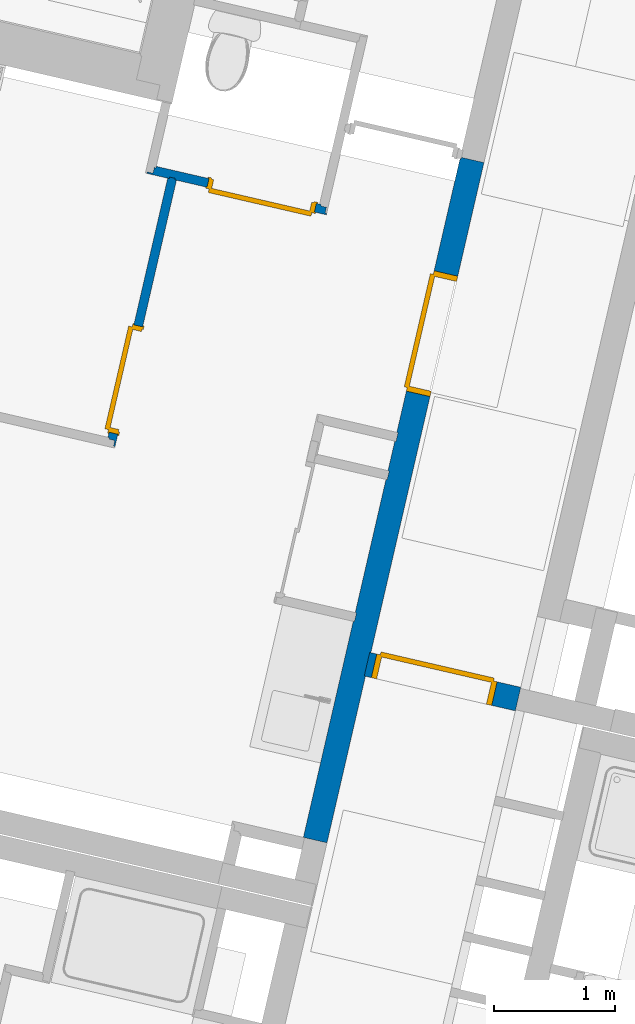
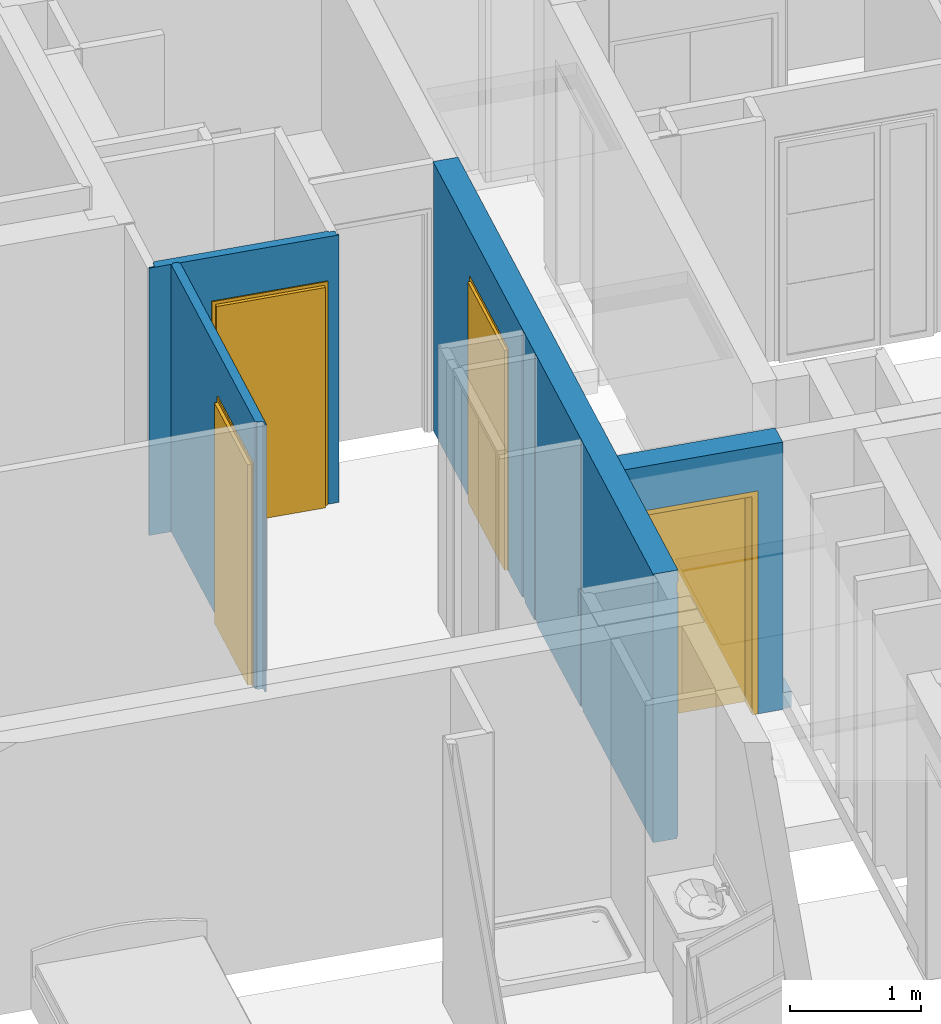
# One storey, part 22 of 119: 4 doors, 4 walls, 4 openings.
"""IFC2X3 building model written with IfcOpenShell, lengths in metres."""

from ifc_helpers import new_model, entity, si_unit, converted_unit, derived_unit, money_unit, direction, frame, origin_with_axes, place, context, subcontext, project, spatial, faceted_brep, source, transform, mapped, material, material_list, type_object, element, fill, save


model = new_model("IFC2X3")

# Units and contexts
model_context = context("Model", 3, precision=1e-05, world=origin_with_axes(), true_north=direction((0.0, 1.0)))
body_context = subcontext(model_context, "Body", "Model", "MODEL_VIEW")
ifc_project = project(units=[si_unit("LENGTHUNIT", "METRE"), si_unit("AREAUNIT", "SQUARE_METRE"), si_unit("VOLUMEUNIT", "CUBIC_METRE"), converted_unit("PLANEANGLEUNIT", "DEGREE", entity("IfcPlaneAngleMeasure", 0.0174532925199), si_unit("PLANEANGLEUNIT", "RADIAN"), dimensions=[0, 0, 0, 0, 0, 0, 0]), si_unit("SOLIDANGLEUNIT", "STERADIAN"), money_unit("EUR"), converted_unit("TIMEUNIT", "Year", entity("IfcTimeMeasure", 31556926.0), si_unit("TIMEUNIT", "SECOND"), dimensions=[0, 0, 1, 0, 0, 0, 0]), si_unit("MASSUNIT", "GRAM", prefix="KILO"), si_unit("THERMODYNAMICTEMPERATUREUNIT", "DEGREE_CELSIUS"), si_unit("LUMINOUSINTENSITYUNIT", "LUMEN"), si_unit("ENERGYUNIT", "JOULE", prefix="MEGA"), derived_unit("THERMALCONDUCTANCEUNIT", [(si_unit("POWERUNIT", "WATT"), 1), (si_unit("LENGTHUNIT", "METRE"), -1), (si_unit("THERMODYNAMICTEMPERATUREUNIT", "KELVIN"), -1)]), derived_unit("SPECIFICHEATCAPACITYUNIT", [(si_unit("ENERGYUNIT", "JOULE"), 1), (si_unit("MASSUNIT", "GRAM", prefix="KILO"), -1), (si_unit("THERMODYNAMICTEMPERATUREUNIT", "KELVIN"), -1)]), derived_unit("MASSDENSITYUNIT", [(si_unit("MASSUNIT", "GRAM", prefix="KILO"), 1), (si_unit("VOLUMEUNIT", "CUBIC_METRE"), -1)])], contexts=[model_context])

# Site, building, storey
site_placement = place(None, origin_with_axes())
site = spatial("IfcSite", under=ifc_project, at=site_placement, Name="Site", CompositionType="ELEMENT")
building_placement = place(site_placement, origin_with_axes())
building = spatial("IfcBuilding", under=site, at=building_placement, Name="Bâtiment", CompositionType="ELEMENT")
storey_placement = place(building_placement, origin_with_axes())
storey = spatial("IfcBuildingStorey", under=building, at=storey_placement, Name="Rez-de-chaussée", CompositionType="ELEMENT", Elevation=0.0)

# Wall, opening, door
ifc_material_1 = material(Name="Finition int - Plaque de plâtre")
ifc_material_2 = material(Name="Isolation - Laine de roche")
ifc_material_list_1 = material_list([ifc_material_1, ifc_material_2, ifc_material_1])
wall_type_1 = type_object("IfcWallType", Name="3 - Cloison 72mm Placostil 74", PredefinedType="USERDEFINED")
wall_1_placement = place(storey_placement, frame((-11.5279039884, 8.48845740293, 0.0), z_axis=(0.0, 0.0, 1.0), x_axis=(0.97438734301, -0.224876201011, 0.0)))
wall_1 = element("IfcWall", 1, at=wall_1_placement, inside=storey, type_object=wall_type_1, material=ifc_material_list_1, Name="Cloison Placostil 72/48", ObjectType="PARTITIONING", context=body_context, shape_type="Brep", body=[
    faceted_brep([(0.521853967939, 0.074, 2.08), (0.521853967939, 0.074, 0.0), (0.0739999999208, 0.074, 0.0), (0.0739999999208, 0.074, 2.5), (1.47199999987, 0.074, 2.5), (1.47199999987, 0.074, 0.0), (1.43185396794, 0.074, 0.0), (1.43185396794, 0.074, 2.08), (0.521853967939, 0.061, 2.08), (0.521853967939, 0.061, 0.0), (0.0739999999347, 0.061, 0.0), (0.0739999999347, 0.061, 2.5), (1.47199999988, 0.061, 2.5), (1.47199999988, 0.061, 0.0), (1.43185396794, 0.061, 0.0), (1.43185396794, 0.061, 2.08)], [[[0, 1, 2, 3, 4, 5, 6, 7]], [[1, 0, 8, 9]], [[1, 9, 10, 2]], [[2, 10, 11, 3]], [[4, 3, 11, 12]], [[5, 4, 12, 13]], [[14, 6, 5, 13]], [[7, 6, 14, 15]], [[0, 7, 15, 8]], [[15, 14, 13, 12, 11, 10, 9, 8]]]),
    faceted_brep([(0.521853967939, 0.061, 2.08), (0.521853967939, 0.061, 0.0), (0.0609999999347, 0.061, 0.0), (0.0609999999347, 0.061, 2.5), (1.51999999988, 0.061, 2.5), (1.51999999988, 0.061, 0.0), (1.43185396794, 0.061, 0.0), (1.43185396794, 0.061, 2.08), (0.521853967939, 0.013, 2.08), (0.521853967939, 0.013, 0.0), (0.0609999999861, 0.013, 0.0), (0.0609999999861, 0.013, 2.5), (1.5199999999, 0.013, 2.5), (1.5199999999, 0.013, 0.0), (1.43185396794, 0.013, 0.0), (1.43185396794, 0.013, 2.08)], [[[0, 1, 2, 3, 4, 5, 6, 7]], [[1, 0, 8, 9]], [[1, 9, 10, 2]], [[2, 10, 11, 3]], [[4, 3, 11, 12]], [[5, 4, 12, 13]], [[14, 6, 5, 13]], [[7, 6, 14, 15]], [[0, 7, 15, 8]], [[15, 14, 13, 12, 11, 10, 9, 8]]]),
    faceted_brep([(0.202000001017, 0.013, 0.0), (0.202000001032, 0.0, 0.0), (0.013, 0.0, 0.0), (0.0129999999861, 0.013, 0.0), (0.202000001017, 0.013, 2.5), (0.202000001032, 0.0, 2.5), (0.013, 0.0, 2.5), (0.0129999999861, 0.013, 2.5)], [[[0, 1, 2, 3]], [[1, 0, 4, 5]], [[1, 5, 6, 2]], [[7, 3, 2, 6]], [[4, 0, 3, 7]], [[5, 4, 7, 6]]]),
    faceted_brep([(0.521853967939, 0.013, 2.08), (0.521853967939, 0.013, 0.0), (0.250000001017, 0.013, 0.0), (0.250000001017, 0.013, 2.5), (1.5329999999, 0.013, 2.5), (1.5329999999, 0.013, 0.0), (1.43185396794, 0.013, 0.0), (1.43185396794, 0.013, 2.08), (0.521853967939, 0.0, 2.08), (0.521853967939, 0.0, 0.0), (0.250000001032, 0.0, 0.0), (0.250000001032, 0.0, 2.5), (1.53299999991, 0.0, 2.5), (1.53299999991, 0.0, 0.0), (1.43185396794, 0.0, 0.0), (1.43185396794, 0.0, 2.08)], [[[0, 1, 2, 3, 4, 5, 6, 7]], [[1, 0, 8, 9]], [[1, 9, 10, 2]], [[2, 10, 11, 3]], [[4, 3, 11, 12]], [[5, 4, 12, 13]], [[14, 6, 5, 13]], [[7, 6, 14, 15]], [[0, 7, 15, 8]], [[15, 14, 13, 12, 11, 10, 9, 8]]]),
])
opening_1_placement = place(wall_1_placement, frame((0.976853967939, 0.0, 0.0), z_axis=(0.0, 0.0, 1.0), x_axis=(1.0, 0.0, 0.0)))
opening_1 = element("IfcOpeningElement", 2, at=opening_1_placement, cuts=wall_1, Name="Porte 83x204 bois alvéolaire", context=body_context, shape_type="Brep", body=[
    faceted_brep([(-0.455, 0.074, 0.0), (0.455, 0.074, 0.0), (0.455, -0.074, 0.0), (-0.455, -0.074, 0.0), (-0.455, 0.074, 2.08), (0.455, 0.074, 2.08), (0.455, -0.074, 2.08), (-0.455, -0.074, 2.08)], [[[0, 1, 2, 3]], [[0, 4, 5, 1]], [[1, 5, 6, 2]], [[3, 2, 6, 7]], [[4, 0, 3, 7]], [[5, 4, 7, 6]]]),
])
door_style_1 = type_object("IfcDoorStyle", Name="Porte int générique 2019", ConstructionType="NOTDEFINED", OperationType="SINGLE_SWING_RIGHT", ParameterTakesPrecedence=False, Sizeable=False)
shared_shape_1 = source(origin_with_axes(), body_context, "Body", "Brep", [
    faceted_brep([(0.455, 0.0, 0.0), (0.415, 0.0, 0.0), (0.415, 0.0, 2.04), (-0.415, 0.0, 2.04), (-0.415, 0.0, 0.0), (-0.455, 0.0, 0.0), (-0.455, 0.0, 2.08), (0.455, 0.0, 2.08), (0.455, -0.074, 0.0), (0.415, -0.074, 0.0), (0.415, -0.074, 2.04), (-0.415, -0.074, 2.04), (-0.415, -0.074, 0.0), (-0.455, -0.074, 0.0), (-0.455, -0.074, 2.08), (0.455, -0.074, 2.08)], [[[0, 1, 2, 3, 4, 5, 6, 7]], [[0, 8, 9, 1]], [[1, 9, 10, 2]], [[2, 10, 11, 3]], [[3, 11, 12, 4]], [[5, 4, 12, 13]], [[14, 6, 5, 13]], [[15, 7, 6, 14]], [[8, 0, 7, 15]], [[9, 8, 15, 14, 13, 12, 11, 10]]]),
    faceted_brep([(0.465, 0.0, 0.0), (0.465, 0.01, 0.0), (0.465, 0.01, 2.09), (0.465, 0.0, 2.09), (0.435, 0.0, 0.0), (0.435, 0.01, 0.0), (0.435, 0.01, 2.06), (-0.435, 0.01, 2.06), (-0.435, 0.01, 0.0), (-0.465, 0.01, 0.0), (-0.465, 0.01, 2.09), (-0.465, 0.0, 2.09), (-0.465, 0.0, 0.0), (-0.435, 0.0, 0.0), (-0.435, 0.0, 2.06), (0.435, 0.0, 2.06)], [[[0, 1, 2, 3]], [[0, 4, 5, 1]], [[1, 5, 6, 7, 8, 9, 10, 2]], [[3, 2, 10, 11]], [[4, 0, 3, 11, 12, 13, 14, 15]], [[5, 4, 15, 6]], [[6, 15, 14, 7]], [[7, 14, 13, 8]], [[12, 9, 8, 13]], [[11, 10, 9, 12]]]),
    faceted_brep([(0.465, -0.084, 0.0), (0.465, -0.074, 0.0), (0.465, -0.074, 2.09), (0.465, -0.084, 2.09), (0.435, -0.084, 0.0), (0.435, -0.074, 0.0), (0.435, -0.074, 2.06), (-0.435, -0.074, 2.06), (-0.435, -0.074, 0.0), (-0.465, -0.074, 0.0), (-0.465, -0.074, 2.09), (-0.465, -0.084, 2.09), (-0.465, -0.084, 0.0), (-0.435, -0.084, 0.0), (-0.435, -0.084, 2.06), (0.435, -0.084, 2.06)], [[[0, 1, 2, 3]], [[0, 4, 5, 1]], [[1, 5, 6, 7, 8, 9, 10, 2]], [[3, 2, 10, 11]], [[4, 0, 3, 11, 12, 13, 14, 15]], [[5, 4, 15, 6]], [[6, 15, 14, 7]], [[7, 14, 13, 8]], [[12, 9, 8, 13]], [[11, 10, 9, 12]]]),
    faceted_brep([(0.435, 0.04, 0.0), (0.435, 0.0, 0.0), (-0.435, 0.0, 0.0), (-0.435, 0.04, 0.0), (0.435, 0.04, 2.06), (0.435, 0.0, 2.06), (-0.435, 0.0, 2.06), (-0.435, 0.04, 2.06)], [[[0, 1, 2, 3]], [[4, 5, 1, 0]], [[1, 5, 6, 2]], [[3, 2, 6, 7]], [[0, 3, 7, 4]], [[7, 6, 5, 4]]]),
])
door_1_placement = place(opening_1_placement, frame((0.415, 0.0, 0.0), z_axis=(0.0, 0.0, 1.0), x_axis=(-1.0, 0.0, 0.0)))
door_1 = element("IfcDoor", 3, at=door_1_placement, inside=storey, type_object=door_style_1, Name="Porte 83x204 bois alvéolaire", ObjectType="DOOR", OverallHeight=2.04, OverallWidth=0.83, context=body_context, shape_type="MappedRepresentation", body=[
    mapped(shared_shape_1, transform((0.415, 0.0, 0.0))),
])
fill(opening_1, door_1)

wall_2_placement = place(storey_placement, frame((-11.781974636, 6.21803828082, 0.0), z_axis=(0.0, 0.0, 1.0), x_axis=(0.224876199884, 0.974387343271, 0.0)))
wall_2 = element("IfcWall", 4, at=wall_2_placement, inside=storey, type_object=wall_type_1, material=ifc_material_list_1, Name="Cloison Placostil 72/48", ObjectType="PARTITIONING", context=body_context, shape_type="Brep", body=[
    faceted_brep([(0.117208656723, 0.061, 0.0), (0.117208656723, 0.061, 2.08), (1.02720865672, 0.061, 2.08), (1.02720865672, 0.061, 0.0), (2.26940209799, 0.061, 0.0), (2.26940209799, 0.061, 2.5), (0.0739999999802, 0.061, 2.5), (0.0739999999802, 0.061, 0.0), (0.117208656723, 0.074, 0.0), (0.117208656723, 0.074, 2.08), (1.02720865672, 0.074, 2.08), (1.02720865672, 0.074, 0.0), (2.26940209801, 0.074, 0.0), (2.26940209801, 0.074, 2.5), (0.073999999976, 0.074, 2.5), (0.073999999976, 0.074, 0.0)], [[[0, 1, 2, 3, 4, 5, 6, 7]], [[1, 0, 8, 9]], [[2, 1, 9, 10]], [[3, 2, 10, 11]], [[3, 11, 12, 4]], [[12, 13, 5, 4]], [[13, 14, 6, 5]], [[15, 7, 6, 14]], [[8, 0, 7, 15]], [[9, 8, 15, 14, 13, 12, 11, 10]]]),
    faceted_brep([(0.117208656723, 0.013, 0.0), (0.117208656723, 0.013, 2.08), (1.02720865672, 0.013, 2.08), (1.02720865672, 0.013, 0.0), (2.28240209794, 0.013, 0.0), (2.28240209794, 0.013, 2.5), (0.0609999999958, 0.013, 2.5), (0.0609999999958, 0.013, 0.0), (0.117208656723, 0.061, 0.0), (0.117208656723, 0.061, 2.08), (1.02720865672, 0.061, 2.08), (1.02720865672, 0.061, 0.0), (2.28240209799, 0.061, 0.0), (2.28240209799, 0.061, 2.5), (0.0609999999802, 0.061, 2.5), (0.0609999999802, 0.061, 0.0)], [[[0, 1, 2, 3, 4, 5, 6, 7]], [[1, 0, 8, 9]], [[2, 1, 9, 10]], [[3, 2, 10, 11]], [[3, 11, 12, 4]], [[12, 13, 5, 4]], [[13, 14, 6, 5]], [[15, 7, 6, 14]], [[8, 0, 7, 15]], [[9, 8, 15, 14, 13, 12, 11, 10]]]),
    faceted_brep([(0.117208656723, 0.0, 0.0), (0.117208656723, 0.0, 2.08), (1.02720865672, 0.0, 2.08), (1.02720865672, 0.0, 0.0), (2.26940209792, 0.0, 0.0), (2.26940209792, 0.0, 2.5), (0.013, 0.0, 2.5), (0.013, 0.0, 0.0), (0.117208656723, 0.013, 0.0), (0.117208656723, 0.013, 2.08), (1.02720865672, 0.013, 2.08), (1.02720865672, 0.013, 0.0), (2.26940209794, 0.013, 0.0), (2.26940209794, 0.013, 2.5), (0.0129999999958, 0.013, 2.5), (0.0129999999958, 0.013, 0.0)], [[[0, 1, 2, 3, 4, 5, 6, 7]], [[1, 0, 8, 9]], [[2, 1, 9, 10]], [[3, 2, 10, 11]], [[3, 11, 12, 4]], [[12, 13, 5, 4]], [[13, 14, 6, 5]], [[15, 7, 6, 14]], [[8, 0, 7, 15]], [[9, 8, 15, 14, 13, 12, 11, 10]]]),
])
opening_2_placement = place(wall_2_placement, frame((0.572208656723, 0.0, 0.0), z_axis=(0.0, 0.0, 1.0), x_axis=(1.0, 0.0, 0.0)))
opening_2 = element("IfcOpeningElement", 5, at=opening_2_placement, cuts=wall_2, Name="Porte 83x204 bois alvéolaire", context=body_context, shape_type="Brep", body=[
    faceted_brep([(-0.455, 0.074, 0.0), (0.455, 0.074, 0.0), (0.455, -0.074, 0.0), (-0.455, -0.074, 0.0), (-0.455, 0.074, 2.08), (0.455, 0.074, 2.08), (0.455, -0.074, 2.08), (-0.455, -0.074, 2.08)], [[[0, 1, 2, 3]], [[0, 4, 5, 1]], [[1, 5, 6, 2]], [[3, 2, 6, 7]], [[4, 0, 3, 7]], [[5, 4, 7, 6]]]),
])
door_style_2 = type_object("IfcDoorStyle", Name="Porte int générique 2019", ConstructionType="NOTDEFINED", OperationType="SINGLE_SWING_LEFT", ParameterTakesPrecedence=False, Sizeable=False)
shared_shape_2 = source(origin_with_axes(), body_context, "Body", "Brep", [
    faceted_brep([(-0.455, -0.006, 0.0), (-0.455, -0.006, 2.08), (0.455, -0.006, 2.08), (0.455, -0.006, 0.0), (0.415, -0.006, 0.0), (0.415, -0.006, 2.04), (-0.415, -0.006, 2.04), (-0.415, -0.006, 0.0), (-0.455, -0.08, 0.0), (-0.455, -0.08, 2.08), (0.455, -0.08, 2.08), (0.455, -0.08, 0.0), (0.415, -0.08, 0.0), (0.415, -0.08, 2.04), (-0.415, -0.08, 2.04), (-0.415, -0.08, 0.0)], [[[0, 1, 2, 3, 4, 5, 6, 7]], [[8, 9, 1, 0]], [[9, 10, 2, 1]], [[10, 11, 3, 2]], [[3, 11, 12, 4]], [[5, 4, 12, 13]], [[6, 5, 13, 14]], [[7, 6, 14, 15]], [[0, 7, 15, 8]], [[15, 14, 13, 12, 11, 10, 9, 8]]]),
    faceted_brep([(-0.465, -0.006, 0.0), (-0.465, -0.006, 2.09), (-0.465, 0.004, 2.09), (-0.465, 0.004, 0.0), (-0.435, -0.006, 0.0), (-0.435, -0.006, 2.06), (0.435, -0.006, 2.06), (0.435, -0.006, 0.0), (0.465, -0.006, 0.0), (0.465, -0.006, 2.09), (0.465, 0.004, 2.09), (0.465, 0.004, 0.0), (0.435, 0.004, 0.0), (0.435, 0.004, 2.06), (-0.435, 0.004, 2.06), (-0.435, 0.004, 0.0)], [[[0, 1, 2, 3]], [[4, 5, 6, 7, 8, 9, 1, 0]], [[1, 9, 10, 2]], [[3, 2, 10, 11, 12, 13, 14, 15]], [[0, 3, 15, 4]], [[15, 14, 5, 4]], [[14, 13, 6, 5]], [[13, 12, 7, 6]], [[8, 7, 12, 11]], [[9, 8, 11, 10]]]),
    faceted_brep([(-0.465, -0.09, 0.0), (-0.465, -0.09, 2.09), (-0.465, -0.08, 2.09), (-0.465, -0.08, 0.0), (-0.435, -0.09, 0.0), (-0.435, -0.09, 2.06), (0.435, -0.09, 2.06), (0.435, -0.09, 0.0), (0.465, -0.09, 0.0), (0.465, -0.09, 2.09), (0.465, -0.08, 2.09), (0.465, -0.08, 0.0), (0.435, -0.08, 0.0), (0.435, -0.08, 2.06), (-0.435, -0.08, 2.06), (-0.435, -0.08, 0.0)], [[[0, 1, 2, 3]], [[4, 5, 6, 7, 8, 9, 1, 0]], [[1, 9, 10, 2]], [[3, 2, 10, 11, 12, 13, 14, 15]], [[0, 3, 15, 4]], [[15, 14, 5, 4]], [[14, 13, 6, 5]], [[13, 12, 7, 6]], [[8, 7, 12, 11]], [[9, 8, 11, 10]]]),
    faceted_brep([(-0.435, 0.034, 0.0), (0.435, 0.034, 0.0), (0.435, -0.006, 0.0), (-0.435, -0.006, 0.0), (-0.435, 0.034, 2.06), (0.435, 0.034, 2.06), (0.435, -0.006, 2.06), (-0.435, -0.006, 2.06)], [[[0, 1, 2, 3]], [[0, 4, 5, 1]], [[1, 5, 6, 2]], [[3, 2, 6, 7]], [[4, 0, 3, 7]], [[5, 4, 7, 6]]]),
])
door_2_placement = place(opening_2_placement, frame((-0.415, 0.0, 0.0), z_axis=(0.0, 0.0, 1.0), x_axis=(1.0, 0.0, 0.0)))
door_2 = element("IfcDoor", 6, at=door_2_placement, inside=storey, type_object=door_style_2, Name="Porte 83x204 bois alvéolaire", ObjectType="DOOR", OverallHeight=2.04, OverallWidth=0.83, context=body_context, shape_type="MappedRepresentation", body=[
    mapped(shared_shape_2, transform((0.415, 0.08, 0.0))),
])
fill(opening_2, door_2)

ifc_material_3 = material(Name="Finition int - Enduit plâtre")
ifc_material_4 = material(Name="Béton")
ifc_material_list_2 = material_list([ifc_material_3, ifc_material_4, ifc_material_3])
wall_type_2 = type_object("IfcWallType", Name="2 - Murs Béton 18 + Enduit 2 Faces 200", PredefinedType="USERDEFINED")
wall_3_placement = place(storey_placement, frame((-8.91765505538, 8.61778702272, 0.0), z_axis=(0.0, 0.0, 1.0), x_axis=(-0.22487619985, -0.974387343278, 0.0)))
wall_3 = element("IfcWall", 7, at=wall_3_placement, inside=storey, type_object=wall_type_2, material=ifc_material_list_2, Name="M_Ext-009", ObjectType="SOLIDWALL", context=body_context, shape_type="Brep", body=[
    faceted_brep([(1.98260959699, 0.19, 0.0), (1.98260959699, 0.19, 2.085), (0.962609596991, 0.19, 2.085), (0.962609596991, 0.19, 0.0), (0.0, 0.19, 0.0), (0.0, 0.19, 2.51), (5.76426652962, 0.19, 2.51), (5.76426652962, 0.19, 2.4), (4.35282915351, 0.19, 2.4), (4.35282915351, 0.19, 2.287), (5.76426652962, 0.19, 2.287), (5.76426652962, 0.19, 0.02), (4.35282915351, 0.19, 0.02), (4.35282915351, 0.19, 0.0), (1.98260959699, 0.180000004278, 0.0), (1.98260959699, 0.180000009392, 2.085), (0.962609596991, 0.180000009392, 2.085), (0.962609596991, 0.180000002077, 0.0), (0.0, 0.18, 0.0), (0.0, 0.18, 2.51), (5.76426652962, 0.180000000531, 2.51), (5.76426652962, 0.180000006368, 2.4), (4.35282915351, 0.180000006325, 2.4), (4.35282915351, 0.180000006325, 2.287), (5.76426652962, 0.180000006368, 2.287), (5.76426652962, 0.180000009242, 0.02), (4.35282915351, 0.180000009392, 0.02), (4.35282915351, 0.180000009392, 0.0)], [[[0, 1, 2, 3, 4, 5, 6, 7, 8, 9, 10, 11, 12, 13]], [[1, 0, 14, 15]], [[2, 1, 15, 16]], [[3, 2, 16, 17]], [[3, 17, 18, 4]], [[5, 4, 18, 19]], [[5, 19, 20, 6]], [[20, 21, 7, 6]], [[7, 21, 22, 8]], [[22, 23, 9, 8]], [[9, 23, 24, 10]], [[11, 10, 24, 25]], [[11, 25, 26, 12]], [[26, 27, 13, 12]], [[14, 0, 13, 27]], [[15, 14, 27, 26, 25, 24, 23, 22, 21, 20, 19, 18, 17, 16]]]),
    faceted_brep([(1.98260959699, 0.18, 0.0), (1.98260959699, 0.18, 2.085), (0.962609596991, 0.18, 2.085), (0.962609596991, 0.18, 0.0), (0.0, 0.18, 0.0), (0.0, 0.18, 2.51), (5.76426652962, 0.18, 2.51), (5.76426652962, 0.18, 0.0), (1.98260959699, 0.0, 0.0), (1.98260959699, 0.0, 2.085), (0.962609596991, 0.0, 2.085), (0.962609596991, 0.0, 0.0), (0.0, 0.0, 0.0), (0.0, 0.0, 2.51), (5.76426652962, 0.0, 2.51), (5.76426652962, 0.0, 0.0)], [[[0, 1, 2, 3, 4, 5, 6, 7]], [[1, 0, 8, 9]], [[2, 1, 9, 10]], [[3, 2, 10, 11]], [[3, 11, 12, 4]], [[5, 4, 12, 13]], [[5, 13, 14, 6]], [[14, 15, 7, 6]], [[8, 0, 7, 15]], [[9, 8, 15, 14, 13, 12, 11, 10]]]),
    faceted_brep([(1.98260959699, 0.0, 0.0), (1.98260959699, 0.0, 2.085), (0.962609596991, 0.0, 2.085), (0.962609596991, 0.0, 0.0), (0.0129999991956, 0.0, 0.0), (0.0129999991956, 0.0, 2.5), (-8.04438293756e-10, 0.0, 2.5), (-4.02219590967e-10, 0.0, 2.51), (5.76426652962, 0.0, 2.51), (5.76426652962, 0.0, 0.0), (3.93357240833, 0.0, 0.0), (3.93357240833, 0.0, 2.5), (3.85957240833, 0.0, 2.5), (3.85957240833, 0.0, 0.0), (2.73060959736, 0.0, 0.0), (2.73060959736, 0.0, 2.5), (2.65660959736, 0.0, 2.5), (2.65660959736, 0.0, 0.0), (2.40660959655, 0.0, 0.0), (2.40660959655, 0.0, 2.5), (2.33260959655, 0.0, 2.5), (2.33260959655, 0.0, 0.0), (1.98260959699, -0.01, 0.0), (1.98260959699, -0.01, 2.085), (0.962609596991, -0.01, 2.085), (0.962609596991, -0.01, 0.0), (0.0129999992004, -0.01, 0.0), (0.0129999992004, -0.01, 2.5), (-7.99628807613e-10, -0.01, 2.5), (-3.99814403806e-10, -0.01, 2.51), (5.76426652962, -0.01, 2.51), (5.76426652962, -0.01, 0.0), (3.93357240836, -0.01, 0.0), (3.93357240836, -0.01, 2.5), (3.85957240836, -0.01, 2.5), (3.85957240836, -0.01, 0.0), (2.7306095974, -0.01, 0.0), (2.7306095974, -0.01, 2.5), (2.6566095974, -0.01, 2.5), (2.6566095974, -0.01, 0.0), (2.40660959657, -0.01, 0.0), (2.40660959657, -0.01, 2.5), (2.33260959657, -0.01, 2.5), (2.33260959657, -0.01, 0.0)], [[[0, 1, 2, 3, 4, 5, 6, 7, 8, 9, 10, 11, 12, 13, 14, 15, 16, 17, 18, 19, 20, 21]], [[1, 0, 22, 23]], [[2, 1, 23, 24]], [[3, 2, 24, 25]], [[3, 25, 26, 4]], [[5, 4, 26, 27]], [[28, 6, 5, 27]], [[7, 6, 28, 29]], [[7, 29, 30, 8]], [[30, 31, 9, 8]], [[32, 10, 9, 31]], [[11, 10, 32, 33]], [[12, 11, 33, 34]], [[13, 12, 34, 35]], [[13, 35, 36, 14]], [[15, 14, 36, 37]], [[16, 15, 37, 38]], [[17, 16, 38, 39]], [[17, 39, 40, 18]], [[19, 18, 40, 41]], [[20, 19, 41, 42]], [[21, 20, 42, 43]], [[22, 0, 21, 43]], [[23, 22, 43, 42, 41, 40, 39, 38, 37, 36, 35, 34, 33, 32, 31, 30, 29, 28, 27, 26, 25, 24]]]),
])
opening_3_placement = place(wall_3_placement, frame((1.47260959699, 0.0, 0.0), z_axis=(0.0, 0.0, 1.0), x_axis=(1.0, 0.0, 0.0)))
opening_3 = element("IfcOpeningElement", 8, at=opening_3_placement, cuts=wall_3, Name="Porte 93x204 bois blindée", context=body_context, shape_type="Brep", body=[
    faceted_brep([(-0.51, 0.2, 0.0), (0.51, 0.2, 0.0), (0.51, -0.2, 0.0), (-0.51, -0.2, 0.0), (-0.51, 0.2, 2.085), (0.51, 0.2, 2.085), (0.51, -0.2, 2.085), (-0.51, -0.2, 2.085)], [[[0, 1, 2, 3]], [[0, 4, 5, 1]], [[1, 5, 6, 2]], [[3, 2, 6, 7]], [[4, 0, 3, 7]], [[5, 4, 7, 6]]]),
])
door_style_3 = type_object("IfcDoorStyle", Name="Porte int générique 2019", ConstructionType="NOTDEFINED", OperationType="SINGLE_SWING_RIGHT", ParameterTakesPrecedence=False, Sizeable=False)
shared_shape_3 = source(origin_with_axes(), body_context, "Body", "Brep", [
    faceted_brep([(0.51, 0.0, 0.0), (0.48, 0.0, 0.0), (0.48, 0.0, 2.055), (-0.48, 0.0, 2.055), (-0.48, 0.0, 0.0), (-0.51, 0.0, 0.0), (-0.51, 0.0, 2.085), (0.51, 0.0, 2.085), (0.51, -0.2, 0.0), (0.465, -0.2, 0.0), (0.465, -0.015, 0.0), (0.48, -0.015, 0.0), (0.48, -0.015, 2.055), (-0.48, -0.015, 2.055), (-0.48, -0.015, 0.0), (-0.465, -0.015, 0.0), (-0.465, -0.2, 0.0), (-0.51, -0.2, 0.0), (-0.51, -0.2, 2.085), (0.51, -0.2, 2.085), (-0.465, -0.2, 2.04), (0.465, -0.2, 2.04), (0.465, -0.015, 2.04), (-0.465, -0.015, 2.04)], [[[0, 1, 2, 3, 4, 5, 6, 7]], [[0, 8, 9, 10, 11, 1]], [[1, 11, 12, 2]], [[2, 12, 13, 3]], [[3, 13, 14, 4]], [[5, 4, 14, 15, 16, 17]], [[18, 6, 5, 17]], [[19, 7, 6, 18]], [[8, 0, 7, 19]], [[9, 8, 19, 18, 17, 16, 20, 21]], [[10, 9, 21, 22]], [[11, 10, 22, 23, 15, 14, 13, 12]], [[23, 20, 16, 15]], [[22, 21, 20, 23]]]),
    faceted_brep([(0.48, 0.025, 0.0), (0.48, -0.015, 0.0), (-0.48, -0.015, 0.0), (-0.48, 0.025, 0.0), (0.48, 0.025, 2.055), (0.48, -0.015, 2.055), (-0.48, -0.015, 2.055), (-0.48, 0.025, 2.055)], [[[0, 1, 2, 3]], [[4, 5, 1, 0]], [[1, 5, 6, 2]], [[3, 2, 6, 7]], [[0, 3, 7, 4]], [[7, 6, 5, 4]]]),
])
door_3_placement = place(opening_3_placement, frame((0.465, 0.0, 0.0), z_axis=(0.0, 0.0, 1.0), x_axis=(-1.0, 0.0, 0.0)))
door_3 = element("IfcDoor", 9, at=door_3_placement, inside=storey, type_object=door_style_3, Name="Porte 93x204 bois blindée", ObjectType="DOOR", OverallHeight=2.04, OverallWidth=0.93, context=body_context, shape_type="MappedRepresentation", body=[
    mapped(shared_shape_3, transform((0.465, 0.01, 0.0))),
])
fill(opening_3, door_3)

wall_4_placement = place(storey_placement, frame((-8.47351669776, 4.04803831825, 0.0), z_axis=(0.0, 0.0, 1.0), x_axis=(-0.974387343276, 0.224876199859, 0.0)))
wall_4 = element("IfcWall", 10, at=wall_4_placement, inside=storey, type_object=wall_type_2, material=ifc_material_list_2, Name="M_Ext-008", ObjectType="SOLIDWALL", context=body_context, shape_type="Brep", body=[
    faceted_brep([(1.22039556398, -0.01, 2.085), (1.22039556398, -0.01, 0.02), (1.22039556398, -0.01, 0.0), (1.28039052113, -0.01, 0.0), (1.28039052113, -0.01, 2.5), (0.0, -0.01, 2.5), (0.0, -0.01, 0.15), (0.0, -0.01, 0.0), (0.200395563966, -0.01, 0.0), (0.20039556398, -0.01, 0.02), (0.20039556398, -0.01, 2.085), (1.22039556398, 0.0, 2.085), (1.22039556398, 0.0, 0.02), (1.22039556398, 0.0, 0.0), (1.28039052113, 0.0, 0.0), (1.28039052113, 0.0, 2.5), (0.0, -8.19564593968e-09, 2.5), (0.0, -8.19564593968e-09, 0.15), (0.0, 0.0, 0.0), (0.20039556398, 0.0, 0.0), (0.20039556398, 0.0, 0.02), (0.20039556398, 0.0, 2.085)], [[[0, 1, 2, 3, 4, 5, 6, 7, 8, 9, 10]], [[1, 0, 11, 12]], [[1, 12, 13, 2]], [[13, 14, 3, 2]], [[14, 15, 4, 3]], [[15, 16, 5, 4]], [[17, 6, 5, 16]], [[7, 6, 17, 18]], [[8, 7, 18, 19]], [[20, 9, 8, 19]], [[10, 9, 20, 21]], [[0, 10, 21, 11]], [[21, 20, 19, 18, 17, 16, 15, 14, 13, 12, 11]]]),
    faceted_brep([(1.22039556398, -0.19, 2.085), (1.22039556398, -0.19, 0.005), (1.22039556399, -0.19, 0.0), (1.28039052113, -0.19, 0.0), (1.28039052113, -0.19, 2.5), (0.0, -0.19, 2.5), (0.0, -0.19, 0.15), (-0.0739999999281, -0.19, 0.15), (-0.0739999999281, -0.19, 0.0), (0.200395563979, -0.19, 0.0), (0.20039556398, -0.19, 0.005), (0.20039556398, -0.19, 2.085), (1.22039556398, -0.01, 2.085), (1.22039556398, -0.01, 0.005), (1.22039556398, -0.01, 0.0), (1.28039052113, -0.01, 0.0), (1.28039052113, -0.01, 2.5), (0.0, -0.01, 2.5), (0.0, -0.01, 0.15), (-0.0739999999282, -0.01, 0.15), (-0.0739999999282, -0.01, 0.0), (0.200395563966, -0.01, 0.0), (0.20039556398, -0.01, 0.005), (0.20039556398, -0.01, 2.085)], [[[0, 1, 2, 3, 4, 5, 6, 7, 8, 9, 10, 11]], [[1, 0, 12, 13]], [[1, 13, 14, 2]], [[14, 15, 3, 2]], [[16, 4, 3, 15]], [[17, 5, 4, 16]], [[6, 5, 17, 18]], [[19, 7, 6, 18]], [[8, 7, 19, 20]], [[9, 8, 20, 21]], [[22, 10, 9, 21]], [[11, 10, 22, 23]], [[0, 11, 23, 12]], [[23, 22, 21, 20, 19, 18, 17, 16, 15, 14, 13, 12]]]),
    faceted_brep([(1.22039556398, -0.2, 2.085), (1.22039556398, -0.2, 0.02), (1.22039556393, -0.2, 0.0), (1.28039052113, -0.2, 0.0), (1.28039052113, -0.2, 2.5), (0.0, -0.2, 2.5), (0.0, -0.2, 0.15), (-0.0739999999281, -0.2, 0.15), (-0.0739999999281, -0.2, 0.0), (0.20039556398, -0.2, 0.0), (0.20039556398, -0.2, 0.02), (0.20039556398, -0.2, 2.085), (1.22039556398, -0.19, 2.085), (1.22039556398, -0.19, 0.02), (1.22039556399, -0.19, 0.0), (1.28039052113, -0.19, 0.0), (1.28039052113, -0.19, 2.5), (0.0, -0.19, 2.5), (0.0, -0.19, 0.15), (-0.0739999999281, -0.19, 0.15), (-0.0739999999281, -0.19, 0.0), (0.200395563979, -0.19, 0.0), (0.20039556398, -0.19, 0.02), (0.20039556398, -0.19, 2.085)], [[[0, 1, 2, 3, 4, 5, 6, 7, 8, 9, 10, 11]], [[1, 0, 12, 13]], [[1, 13, 14, 2]], [[14, 15, 3, 2]], [[15, 16, 4, 3]], [[16, 17, 5, 4]], [[18, 6, 5, 17]], [[18, 19, 7, 6]], [[20, 8, 7, 19]], [[9, 8, 20, 21]], [[22, 10, 9, 21]], [[11, 10, 22, 23]], [[0, 11, 23, 12]], [[23, 22, 21, 20, 19, 18, 17, 16, 15, 14, 13, 12]]]),
])
opening_4_placement = place(wall_4_placement, frame((0.71039556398, 0.0, 0.0), z_axis=(0.0, 0.0, 1.0), x_axis=(1.0, 0.0, 0.0)))
opening_4 = element("IfcOpeningElement", 11, at=opening_4_placement, cuts=wall_4, Name="Porte 93x204 bois CF", context=body_context, shape_type="Brep", body=[
    faceted_brep([(0.51, -0.2, 0.0), (-0.51, -0.2, 0.0), (-0.51, 0.2, 0.0), (0.51, 0.2, 0.0), (0.51, -0.2, 2.085), (-0.51, -0.2, 2.085), (-0.51, 0.2, 2.085), (0.51, 0.2, 2.085)], [[[0, 1, 2, 3]], [[0, 4, 5, 1]], [[1, 5, 6, 2]], [[3, 2, 6, 7]], [[4, 0, 3, 7]], [[5, 4, 7, 6]]]),
])
door_style_4 = type_object("IfcDoorStyle", Name="Porte int générique 2019", ConstructionType="NOTDEFINED", OperationType="SINGLE_SWING_LEFT", ParameterTakesPrecedence=False, Sizeable=False)
shared_shape_4 = source(origin_with_axes(), body_context, "Body", "Brep", [
    faceted_brep([(-0.51, 0.0, 0.0), (-0.51, 0.0, 2.085), (0.51, 0.0, 2.085), (0.51, 0.0, 0.0), (0.48, 0.0, 0.0), (0.48, 0.0, 2.055), (-0.48, 0.0, 2.055), (-0.48, 0.0, 0.0), (-0.51, -0.2, 0.0), (-0.51, -0.2, 2.085), (0.51, -0.2, 2.085), (0.51, -0.2, 0.0), (0.465, -0.2, 0.0), (0.465, -0.015, 0.0), (0.48, -0.015, 0.0), (0.48, -0.015, 2.055), (-0.48, -0.015, 2.055), (-0.48, -0.015, 0.0), (-0.465, -0.015, 0.0), (-0.465, -0.2, 0.0), (-0.465, -0.2, 2.04), (0.465, -0.2, 2.04), (0.465, -0.015, 2.04), (-0.465, -0.015, 2.04)], [[[0, 1, 2, 3, 4, 5, 6, 7]], [[8, 9, 1, 0]], [[9, 10, 2, 1]], [[10, 11, 3, 2]], [[3, 11, 12, 13, 14, 4]], [[5, 4, 14, 15]], [[6, 5, 15, 16]], [[7, 6, 16, 17]], [[0, 7, 17, 18, 19, 8]], [[19, 20, 21, 12, 11, 10, 9, 8]], [[22, 13, 12, 21]], [[17, 16, 15, 14, 13, 22, 23, 18]], [[18, 23, 20, 19]], [[23, 22, 21, 20]]]),
    faceted_brep([(-0.48, 0.025, 0.0), (0.48, 0.025, 0.0), (0.48, -0.015, 0.0), (-0.48, -0.015, 0.0), (-0.48, 0.025, 2.055), (0.48, 0.025, 2.055), (0.48, -0.015, 2.055), (-0.48, -0.015, 2.055)], [[[0, 1, 2, 3]], [[0, 4, 5, 1]], [[1, 5, 6, 2]], [[3, 2, 6, 7]], [[4, 0, 3, 7]], [[5, 4, 7, 6]]]),
])
door_4_placement = place(opening_4_placement, frame((0.465, 0.0, 0.0), z_axis=(0.0, 0.0, 1.0), x_axis=(-1.0, 0.0, 0.0)))
door_4 = element("IfcDoor", 12, at=door_4_placement, inside=storey, type_object=door_style_4, Name="Porte 93x204 bois CF", ObjectType="DOOR", OverallHeight=2.04, OverallWidth=0.93, context=body_context, shape_type="MappedRepresentation", body=[
    mapped(shared_shape_4, transform((0.465, 0.2, 0.0))),
])
fill(opening_4, door_4)

save(model, "model.ifc")
